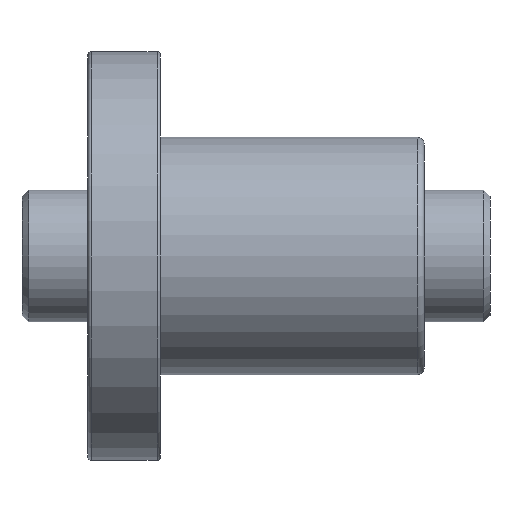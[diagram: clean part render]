
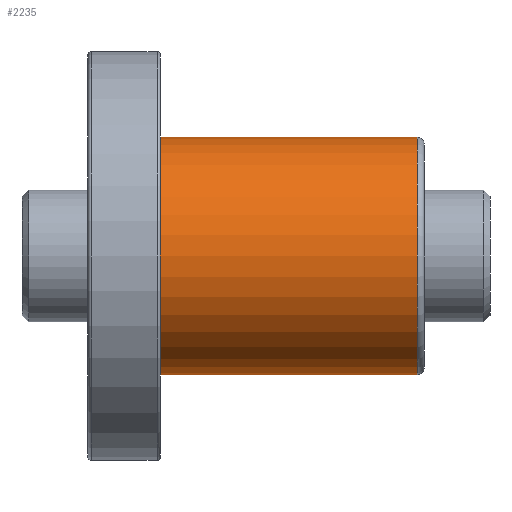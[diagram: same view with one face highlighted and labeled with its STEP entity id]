
A CAD part, front view. The second image highlights one B-rep face of the part: STEP entity #2235.
In plain terms, the highlighted cylindrical face has radius 18 mm (diameter 36 mm), a partial arc.
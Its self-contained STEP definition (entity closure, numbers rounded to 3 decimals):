
#150 = DIRECTION ( 'NONE',  ( 0., 0., 1. ) ) ;
#346 = ORIENTED_EDGE ( 'NONE', *, *, #3531, .F. ) ;
#432 = VECTOR ( 'NONE', #694, 1000. ) ;
#694 = DIRECTION ( 'NONE',  ( -1., 0., 0. ) ) ;
#727 = ORIENTED_EDGE ( 'NONE', *, *, #1984, .T. ) ;
#788 = AXIS2_PLACEMENT_3D ( 'NONE', #4364, #2992, #4351 ) ;
#813 = EDGE_CURVE ( 'NONE', #2873, #1812, #4374, .T. ) ;
#1236 = DIRECTION ( 'NONE',  ( -1., 0., 0. ) ) ;
#1425 = AXIS2_PLACEMENT_3D ( 'NONE', #1945, #1236, #2308 ) ;
#1502 = LINE ( 'NONE', #1759, #432 ) ;
#1722 = CARTESIAN_POINT ( 'NONE',  ( 50., 0., 18. ) ) ;
#1759 = CARTESIAN_POINT ( 'NONE',  ( 51., 0., -18. ) ) ;
#1812 = VERTEX_POINT ( 'NONE', #3515 ) ;
#1945 = CARTESIAN_POINT ( 'NONE',  ( 51., 0., 0. ) ) ;
#1984 = EDGE_CURVE ( 'NONE', #2797, #2040, #3653, .T. ) ;
#2030 = CARTESIAN_POINT ( 'NONE',  ( 11., 0., -18. ) ) ;
#2040 = VERTEX_POINT ( 'NONE', #1722 ) ;
#2235 = ADVANCED_FACE ( 'NONE', ( #3388 ), #4360, .T. ) ;
#2273 = AXIS2_PLACEMENT_3D ( 'NONE', #3557, #2908, #150 ) ;
#2307 = EDGE_CURVE ( 'NONE', #2040, #1812, #3272, .T. ) ;
#2308 = DIRECTION ( 'NONE',  ( 0., 0., 1. ) ) ;
#2364 = CARTESIAN_POINT ( 'NONE',  ( 51., 0., 18. ) ) ;
#2366 = ORIENTED_EDGE ( 'NONE', *, *, #813, .F. ) ;
#2747 = DIRECTION ( 'NONE',  ( -1., 0., 0. ) ) ;
#2790 = VECTOR ( 'NONE', #2747, 1000. ) ;
#2797 = VERTEX_POINT ( 'NONE', #3368 ) ;
#2873 = VERTEX_POINT ( 'NONE', #2030 ) ;
#2908 = DIRECTION ( 'NONE',  ( -1., 0., 0. ) ) ;
#2992 = DIRECTION ( 'NONE',  ( -1., 0., 0. ) ) ;
#3272 = LINE ( 'NONE', #2364, #2790 ) ;
#3368 = CARTESIAN_POINT ( 'NONE',  ( 50., 0., -18. ) ) ;
#3388 = FACE_OUTER_BOUND ( 'NONE', #3940, .T. ) ;
#3515 = CARTESIAN_POINT ( 'NONE',  ( 11., 0., 18. ) ) ;
#3531 = EDGE_CURVE ( 'NONE', #2797, #2873, #1502, .T. ) ;
#3557 = CARTESIAN_POINT ( 'NONE',  ( 11., 0., 0. ) ) ;
#3653 = CIRCLE ( 'NONE', #788, 18. ) ;
#3654 = ORIENTED_EDGE ( 'NONE', *, *, #2307, .T. ) ;
#3940 = EDGE_LOOP ( 'NONE', ( #346, #727, #3654, #2366 ) ) ;
#4351 = DIRECTION ( 'NONE',  ( 0., 0., -1. ) ) ;
#4360 = CYLINDRICAL_SURFACE ( 'NONE', #1425, 18. ) ;
#4364 = CARTESIAN_POINT ( 'NONE',  ( 50., 0., 0. ) ) ;
#4374 = CIRCLE ( 'NONE', #2273, 18. ) ;
